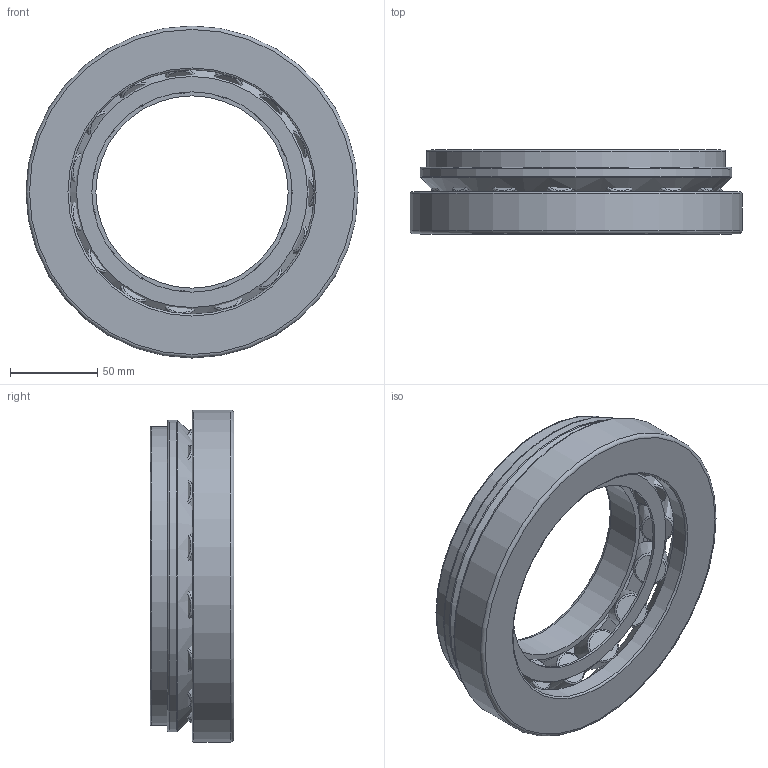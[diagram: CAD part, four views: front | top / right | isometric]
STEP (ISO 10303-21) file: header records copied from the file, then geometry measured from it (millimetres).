
FILE_DESCRIPTION(/* description */ (''),/* implementation_level */ '2;1');
FILE_NAME(/* name */ 'C:\Users\OUREHANEKD\Desktop\Ložiská\MODELY\ASL\293EJ\293--\29322EJ.stp',/* time_stamp */ '2016-09-23T13:18:30+02:00',/* author */ ('OUREHANEKD'),/* organization */ (''),/* preprocessor_version */ 'ST-DEVELOPER v15.6',/* originating_system */ 'Autodesk Inventor 2015',/* authorisation */ '');
FILE_SCHEMA (('AUTOMOTIVE_DESIGN { 1 0 10303 214 3 1 1 }'));
Length unit declared in the file: millimetre
Products named in the file (5): 29322EJ-01; 29322EJ-02; 29322EJ-kl; 29322EJ-roller; 29322EJ
Assembly tree (18 placements, depth 2):
  29322EJ
    29322EJ-01
    29322EJ-02
    29322EJ-kl
    29322EJ-roller  x15
Bounding box: 190 x 48 x 190 mm (x, y, z)
Volume: 585681 mm3; surface area: 166162.1 mm2
Topology: 18 solids, 18 shells, 107 faces, 195 edges, 128 vertices
Faces by surface type: plane 40, torus 38, bspline 18, cylinder 9, cone 2
Full cylindrical faces by diameter (mm): 110 x1, 114.608 x1, 140 x1, 171 x2, 175.512 x2, 178.392 x1, 190 x1
Entity records: 1149 total; most frequent: CARTESIAN_POINT 264, DIRECTION 200, AXIS2_PLACEMENT_3D 100, ORIENTED_EDGE 96, EDGE_LOOP 68, EDGE_CURVE 48, CIRCLE 44, VERTEX_POINT 44
